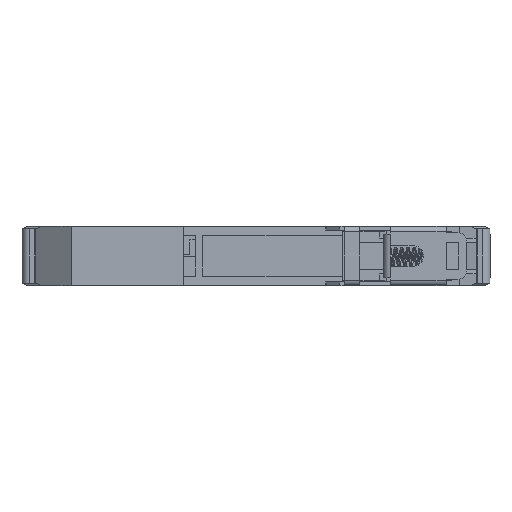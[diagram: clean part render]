
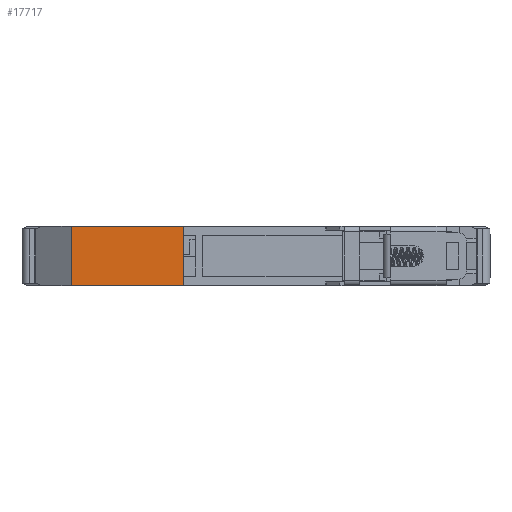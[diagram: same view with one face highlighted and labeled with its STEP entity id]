
A CAD part, front view. The second image highlights one B-rep face of the part: STEP entity #17717.
In plain terms, the highlighted planar face has unit normal (0, -1, 0).
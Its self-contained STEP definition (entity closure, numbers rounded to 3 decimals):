
#32 = PLANE('',#33);
#33 = AXIS2_PLACEMENT_3D('',#34,#35,#36);
#34 = CARTESIAN_POINT('',(1035.98,805.403,
    174.917));
#35 = DIRECTION('',(0.,0.,1.));
#36 = DIRECTION('',(1.,0.,-0.));
#57 = VERTEX_POINT('',#58);
#58 = CARTESIAN_POINT('',(266.169,-364.098,
    174.917));
#72 = PLANE('',#73);
#73 = AXIS2_PLACEMENT_3D('',#74,#75,#76);
#74 = CARTESIAN_POINT('',(258.719,-358.398,
    168.667));
#75 = DIRECTION('',(-0.608,-0.794,0.));
#76 = DIRECTION('',(0.794,-0.608,0.));
#84 = EDGE_CURVE('',#57,#85,#87,.T.);
#85 = VERTEX_POINT('',#86);
#86 = CARTESIAN_POINT('',(289.869,-364.098,
    174.917));
#87 = SURFACE_CURVE('',#88,(#92,#99),.PCURVE_S1.);
#88 = LINE('',#89,#90);
#89 = CARTESIAN_POINT('',(266.169,-364.098,
    174.917));
#90 = VECTOR('',#91,1.);
#91 = DIRECTION('',(1.,0.,0.));
#92 = PCURVE('',#32,#93);
#93 = DEFINITIONAL_REPRESENTATION('',(#94),#98);
#94 = LINE('',#95,#96);
#95 = CARTESIAN_POINT('',(-769.811,-1169.501));
#96 = VECTOR('',#97,1.);
#97 = DIRECTION('',(1.,0.));
#98 = ( GEOMETRIC_REPRESENTATION_CONTEXT(2) 
PARAMETRIC_REPRESENTATION_CONTEXT() REPRESENTATION_CONTEXT('2D SPACE',''
  ) );
#99 = PCURVE('',#100,#105);
#100 = PLANE('',#101);
#101 = AXIS2_PLACEMENT_3D('',#102,#103,#104);
#102 = CARTESIAN_POINT('',(266.169,-364.098,
    168.667));
#103 = DIRECTION('',(0.,-1.,0.));
#104 = DIRECTION('',(1.,0.,0.));
#105 = DEFINITIONAL_REPRESENTATION('',(#106),#110);
#106 = LINE('',#107,#108);
#107 = CARTESIAN_POINT('',(0.,6.25));
#108 = VECTOR('',#109,1.);
#109 = DIRECTION('',(1.,0.));
#110 = ( GEOMETRIC_REPRESENTATION_CONTEXT(2) 
PARAMETRIC_REPRESENTATION_CONTEXT() REPRESENTATION_CONTEXT('2D SPACE',''
  ) );
#128 = PLANE('',#129);
#129 = AXIS2_PLACEMENT_3D('',#130,#131,#132);
#130 = CARTESIAN_POINT('',(289.869,-364.098,
    168.667));
#131 = DIRECTION('',(1.,0.,0.));
#132 = DIRECTION('',(-0.,1.,0.));
#4039 = VERTEX_POINT('',#4040);
#4040 = CARTESIAN_POINT('',(266.169,-364.098,
    162.417));
#4054 = PLANE('',#4055);
#4055 = AXIS2_PLACEMENT_3D('',#4056,#4057,#4058);
#4056 = CARTESIAN_POINT('',(1035.98,805.403,
    162.417));
#4057 = DIRECTION('',(0.,0.,-1.));
#4058 = DIRECTION('',(1.,0.,0.));
#4066 = EDGE_CURVE('',#4039,#57,#4067,.T.);
#4067 = SURFACE_CURVE('',#4068,(#4072,#4079),.PCURVE_S1.);
#4068 = LINE('',#4069,#4070);
#4069 = CARTESIAN_POINT('',(266.169,-364.098,
    162.417));
#4070 = VECTOR('',#4071,1.);
#4071 = DIRECTION('',(0.,0.,1.));
#4072 = PCURVE('',#72,#4073);
#4073 = DEFINITIONAL_REPRESENTATION('',(#4074),#4078);
#4074 = LINE('',#4075,#4076);
#4075 = CARTESIAN_POINT('',(9.38,-6.25));
#4076 = VECTOR('',#4077,1.);
#4077 = DIRECTION('',(0.,1.));
#4078 = ( GEOMETRIC_REPRESENTATION_CONTEXT(2) 
PARAMETRIC_REPRESENTATION_CONTEXT() REPRESENTATION_CONTEXT('2D SPACE',''
  ) );
#4079 = PCURVE('',#100,#4080);
#4080 = DEFINITIONAL_REPRESENTATION('',(#4081),#4085);
#4081 = LINE('',#4082,#4083);
#4082 = CARTESIAN_POINT('',(0.,-6.25));
#4083 = VECTOR('',#4084,1.);
#4084 = DIRECTION('',(0.,1.));
#4085 = ( GEOMETRIC_REPRESENTATION_CONTEXT(2) 
PARAMETRIC_REPRESENTATION_CONTEXT() REPRESENTATION_CONTEXT('2D SPACE',''
  ) );
#17621 = EDGE_CURVE('',#85,#17622,#17624,.T.);
#17622 = VERTEX_POINT('',#17623);
#17623 = CARTESIAN_POINT('',(289.869,-364.098,
    162.417));
#17624 = SURFACE_CURVE('',#17625,(#17629,#17636),.PCURVE_S1.);
#17625 = LINE('',#17626,#17627);
#17626 = CARTESIAN_POINT('',(289.869,-364.098,
    174.917));
#17627 = VECTOR('',#17628,1.);
#17628 = DIRECTION('',(0.,0.,-1.));
#17629 = PCURVE('',#128,#17630);
#17630 = DEFINITIONAL_REPRESENTATION('',(#17631),#17635);
#17631 = LINE('',#17632,#17633);
#17632 = CARTESIAN_POINT('',(0.,6.25));
#17633 = VECTOR('',#17634,1.);
#17634 = DIRECTION('',(0.,-1.));
#17635 = ( GEOMETRIC_REPRESENTATION_CONTEXT(2) 
PARAMETRIC_REPRESENTATION_CONTEXT() REPRESENTATION_CONTEXT('2D SPACE',''
  ) );
#17636 = PCURVE('',#100,#17637);
#17637 = DEFINITIONAL_REPRESENTATION('',(#17638),#17642);
#17638 = LINE('',#17639,#17640);
#17639 = CARTESIAN_POINT('',(23.7,6.25));
#17640 = VECTOR('',#17641,1.);
#17641 = DIRECTION('',(0.,-1.));
#17642 = ( GEOMETRIC_REPRESENTATION_CONTEXT(2) 
PARAMETRIC_REPRESENTATION_CONTEXT() REPRESENTATION_CONTEXT('2D SPACE',''
  ) );
#17717 = ADVANCED_FACE('',(#17718),#100,.T.);
#17718 = FACE_BOUND('',#17719,.T.);
#17719 = EDGE_LOOP('',(#17720,#17721,#17722,#17743));
#17720 = ORIENTED_EDGE('',*,*,#84,.F.);
#17721 = ORIENTED_EDGE('',*,*,#4066,.F.);
#17722 = ORIENTED_EDGE('',*,*,#17723,.T.);
#17723 = EDGE_CURVE('',#4039,#17622,#17724,.T.);
#17724 = SURFACE_CURVE('',#17725,(#17729,#17736),.PCURVE_S1.);
#17725 = LINE('',#17726,#17727);
#17726 = CARTESIAN_POINT('',(266.169,-364.098,
    162.417));
#17727 = VECTOR('',#17728,1.);
#17728 = DIRECTION('',(1.,0.,0.));
#17729 = PCURVE('',#100,#17730);
#17730 = DEFINITIONAL_REPRESENTATION('',(#17731),#17735);
#17731 = LINE('',#17732,#17733);
#17732 = CARTESIAN_POINT('',(0.,-6.25));
#17733 = VECTOR('',#17734,1.);
#17734 = DIRECTION('',(1.,0.));
#17735 = ( GEOMETRIC_REPRESENTATION_CONTEXT(2) 
PARAMETRIC_REPRESENTATION_CONTEXT() REPRESENTATION_CONTEXT('2D SPACE',''
  ) );
#17736 = PCURVE('',#4054,#17737);
#17737 = DEFINITIONAL_REPRESENTATION('',(#17738),#17742);
#17738 = LINE('',#17739,#17740);
#17739 = CARTESIAN_POINT('',(-769.811,1169.501));
#17740 = VECTOR('',#17741,1.);
#17741 = DIRECTION('',(1.,0.));
#17742 = ( GEOMETRIC_REPRESENTATION_CONTEXT(2) 
PARAMETRIC_REPRESENTATION_CONTEXT() REPRESENTATION_CONTEXT('2D SPACE',''
  ) );
#17743 = ORIENTED_EDGE('',*,*,#17621,.F.);
